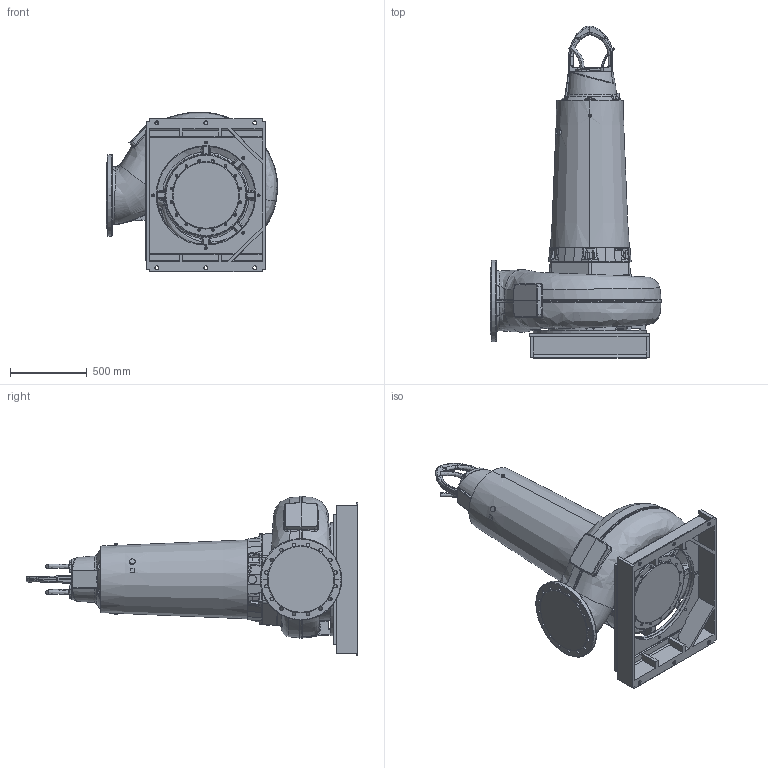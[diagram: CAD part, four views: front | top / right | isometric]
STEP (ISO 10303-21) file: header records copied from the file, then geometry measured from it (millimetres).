
FILE_DESCRIPTION (( 'STEP AP214' ), '1' );
FILE_NAME ('PE5_XFP351M-CH3_DRY_B_NG2.STEP', '2017-03-14T07:26:50', ( '' ), ( '' ), 'SwSTEP 2.0', 'SolidWorks 2017', '' );
FILE_SCHEMA (( 'AUTOMOTIVE_DESIGN' ));
Length unit declared in the file: millimetre
Products named in the file (1): PE5_XFP351M-CH3_DRY_B_NG2
Bounding box: 1118.47 x 2168.97 x 1044.04 mm (x, y, z)
Volume: 489651240.7 mm3; surface area: 7273928 mm2
Topology: 3 solids, 3 shells, 1753 faces, 4539 edges, 2763 vertices
Faces by surface type: bspline 593, cylinder 425, plane 394, cone 191, torus 130, sphere 20
Entity records: 145819 total; most frequent: CARTESIAN_POINT 89353, ORIENTED_EDGE 8934, DIRECTION 6156, EDGE_CURVE 4467, VERTEX_POINT 2763, AXIS2_PLACEMENT_3D 2410, EDGE_LOOP 1876, UNCERTAINTY_MEASURE_WITH_UNIT 1758
